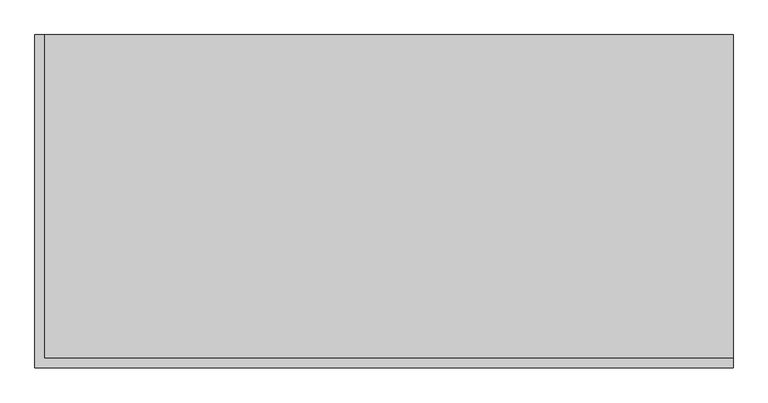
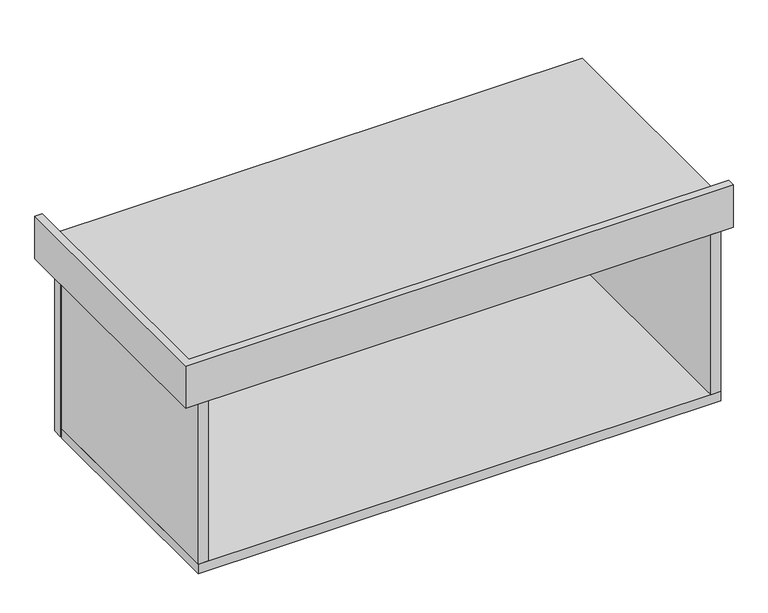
"""IFC4 building model written with IfcOpenShell, lengths in millimetres: furniture geometry, Mueble colgado 1 cajon - lavabo sobreponer : MB7 mueble baño colgado-1 cajon - 90cm 3."""

from ifc_helpers import new_model, si_unit, frame, origin, place, context, project, spatial, polyline, outline, extrude, faceted_brep, source, transform, mapped, element, save


def furniture_18636509(model_context):
    return source(origin(), model_context, "Body", "SolidModel", [
        faceted_brep([(-425.0, 595.0, 800.0), (-410.0, 595.0, 800.0), (-410.0, 595.0, 750.0), (675.0, 595.0, 750.0), (675.0, 595.0, 710.0), (-425.0, 595.0, 710.0), (-425.0, 70.0, 800.0), (675.0, 70.0, 800.0), (675.0, 85.0, 800.0), (-410.0, 85.0, 800.0), (-425.0, 70.0, 710.0), (675.0, 70.0, 710.0), (675.0, 85.0, 750.0), (-410.0, 85.0, 750.0)], [[[0, 1, 2, 3, 4, 5]], [[1, 0, 6, 7, 8, 9]], [[0, 5, 10, 6]], [[7, 6, 10, 11]], [[8, 7, 11, 4, 3, 12]], [[3, 2, 13, 12]], [[4, 11, 10, 5]], [[2, 1, 9, 13]], [[9, 8, 12, 13]]]),
        extrude(outline(polyline([(650.0, 570.0), (650.0, 550.0), (-400.0, 550.0), (-400.0, 570.0), (650.0, 570.0)])), frame((0.0, 0.0, 350.0), z_axis=(0.0, 0.0, 1.0), x_axis=(1.0, 0.0, 0.0)), (0.0, 0.0, 1.0), 350.0),
        extrude(outline(polyline([(650.0, 70.0), (630.0, 70.0), (630.0, 545.0), (650.0, 545.0), (650.0, 70.0)])), frame((0.0, 0.0, 370.0), z_axis=(0.0, 0.0, 1.0), x_axis=(1.0, 0.0, 0.0)), (0.0, 0.0, 1.0), 340.0),
        extrude(outline(polyline([(-380.0, 70.0), (-400.0, 70.0), (-400.0, 545.0), (-380.0, 545.0), (-380.0, 70.0)])), frame((0.0, 0.0, 370.0), z_axis=(0.0, 0.0, 1.0), x_axis=(1.0, 0.0, 0.0)), (0.0, 0.0, 1.0), 340.0),
        extrude(outline(polyline([(650.0, 545.0), (650.0, 70.0), (-400.0, 70.0), (-400.0, 545.0), (650.0, 545.0)])), frame((0.0, 0.0, 350.0), z_axis=(0.0, 0.0, 1.0), x_axis=(1.0, 0.0, 0.0)), (0.0, 0.0, 1.0), 20.0),
    ])


if __name__ == "__main__":
    model = new_model("IFC4")
    model_context = context("Model", 3, world=origin())
    ifc_project = project(units=[si_unit("LENGTHUNIT", "METRE", prefix="MILLI")], contexts=[model_context])
    site = spatial("IfcSite", under=ifc_project)
    building = spatial("IfcBuilding", under=site)
    placement = place(None, origin())
    furniture_shape = furniture_18636509(model_context)
    element("IfcFurniture", 1, ObjectType="Mueble colgado 1 cajon - lavabo sobreponer : MB7 mueble baño colgado-1 cajon - 90cm 3", at=placement, inside=building, context=model_context, shape_type="MappedRepresentation", body=[
        mapped(furniture_shape, transform((0.0, 0.0, 0.0), x_axis=(1.0, 0.0, 0.0), y_axis=(0.0, 1.0, 0.0), z_axis=(0.0, 0.0, 1.0))),
    ])
    save(model, "model.ifc")
